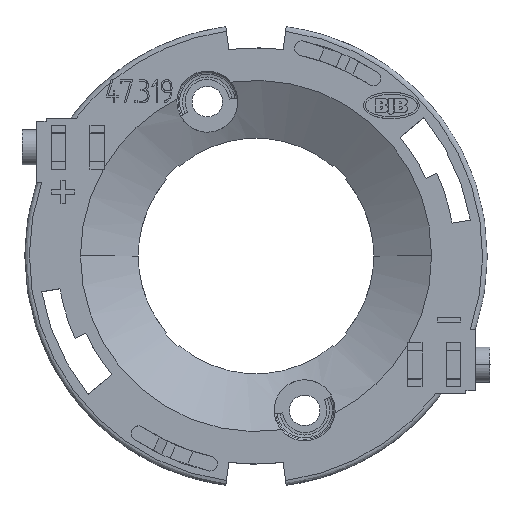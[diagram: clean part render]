
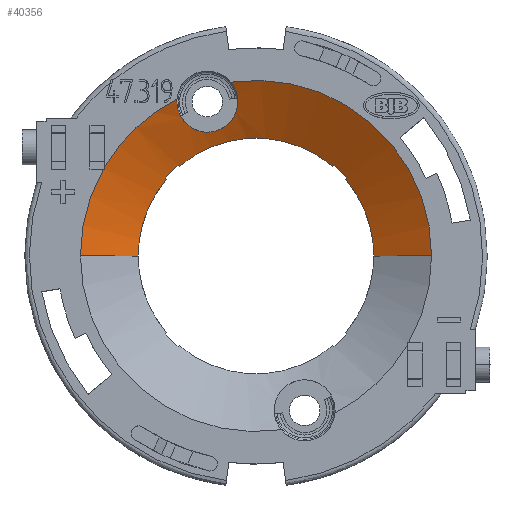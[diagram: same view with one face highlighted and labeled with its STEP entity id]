
A CAD part, top view. The second image highlights one B-rep face of the part: STEP entity #40356.
In plain terms, the highlighted free-form (B-spline) face has degree [7, 1] with [8, 2] control points.
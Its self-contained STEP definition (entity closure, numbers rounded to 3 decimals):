
#23366=CARTESIAN_POINT(' ',(-8.552,16.95,5.05));
#23367=VERTEX_POINT(' ',#23366);
#23371=CARTESIAN_POINT(' ',(-2.717,18.79,5.05));
#23372=VERTEX_POINT(' ',#23371);
#23386=CARTESIAN_POINT(' ',(0.,0.,5.05));
#23391=DIRECTION(' ',(0.,0.,1.));
#23396=DIRECTION(' ',(1.,0.,0.));
#23401=AXIS2_PLACEMENT_3D(' ',#23386,#23391,#23396);
#23406=CIRCLE('',#23401,18.985);
#23411=CARTESIAN_POINT(' ',(18.985,0.,5.05));
#23412=VERTEX_POINT(' ',#23411);
#23416=EDGE_CURVE(' ',#23412,#23372,#23406,.T.);
#23711=CARTESIAN_POINT(' ',(-18.985,0.,5.05));
#23712=VERTEX_POINT(' ',#23711);
#23726=CARTESIAN_POINT(' ',(0.001,-0.001,5.05));
#23731=DIRECTION(' ',(0.,0.,1.));
#23736=DIRECTION(' ',(-0.869,0.495,0.));
#23741=AXIS2_PLACEMENT_3D(' ',#23726,#23731,#23736);
#23746=CIRCLE('',#23741,18.987);
#23751=CARTESIAN_POINT(' ',(-16.495,9.4,5.05));
#23752=VERTEX_POINT(' ',#23751);
#23756=EDGE_CURVE(' ',#23752,#23712,#23746,.T.);
#23891=CARTESIAN_POINT(' ',(-16.35,9.65,5.05));
#23892=VERTEX_POINT(' ',#23891);
#23906=CARTESIAN_POINT(' ',(0.,0.,5.05));
#23911=DIRECTION(' ',(0.,0.,1.));
#23916=DIRECTION(' ',(-0.45,0.893,0.));
#23921=AXIS2_PLACEMENT_3D(' ',#23906,#23911,#23916);
#23926=CIRCLE('',#23921,18.985);
#23931=EDGE_CURVE(' ',#23367,#23892,#23926,.T.);
#39246=CARTESIAN_POINT(' ',(-1.962,16.69,3.791));
#39247=VERTEX_POINT(' ',#39246);
#39261=CARTESIAN_POINT(' ',(-6.247,16.56,4.048));
#39266=DIRECTION(' ',(-0.067,0.495,-0.866));
#39271=DIRECTION(' ',(0.822,0.519,0.233));
#39276=AXIS2_PLACEMENT_3D(' ',#39261,#39266,#39271);
#39281=CIRCLE('',#39276,4.294);
#39286=EDGE_CURVE(' ',#23372,#39247,#39281,.T.);
#39301=CARTESIAN_POINT(' ',(-8.562,16.69,4.919));
#39306=DIRECTION(' ',(0.035,0.892,0.45));
#39311=VECTOR(' ',#39306,1.);
#39316=LINE('',#39301,#39311);
#39321=CARTESIAN_POINT(' ',(-8.562,16.69,4.919));
#39322=VERTEX_POINT(' ',#39321);
#39326=EDGE_CURVE(' ',#39322,#23367,#39316,.T.);
#39701=CARTESIAN_POINT(' ',(18.985,0.,5.05));
#39706=CARTESIAN_POINT(' ',(12.75,0.,1.45));
#39711=CARTESIAN_POINT(' ',(18.985,8.521,5.05));
#39716=CARTESIAN_POINT(' ',(12.75,5.722,1.45));
#39721=CARTESIAN_POINT(' ',(14.523,17.033,5.05));
#39726=CARTESIAN_POINT(' ',(9.753,11.439,1.45));
#39731=CARTESIAN_POINT(' ',(5.609,22.792,5.05));
#39736=CARTESIAN_POINT(' ',(3.767,15.306,1.45));
#39741=CARTESIAN_POINT(' ',(-5.609,22.792,5.05));
#39746=CARTESIAN_POINT(' ',(-3.767,15.306,1.45));
#39751=CARTESIAN_POINT(' ',(-14.523,17.033,5.05));
#39756=CARTESIAN_POINT(' ',(-9.753,11.439,1.45));
#39761=CARTESIAN_POINT(' ',(-18.985,8.521,5.05));
#39766=CARTESIAN_POINT(' ',(-12.75,5.722,1.45));
#39771=CARTESIAN_POINT(' ',(-18.985,0.,5.05));
#39776=CARTESIAN_POINT(' ',(-12.75,0.,1.45));
#39781=B_SPLINE_SURFACE_WITH_KNOTS(' ',7,1,((#39701,#39706),(#39711,#39716),(#39721,#39726),(#39731,#39736),(#39741,#39746),(#39751,#39756),(#39761,#39766),(#39771,#39776)),.UNSPECIFIED.,.F.,.F.,.U.,(8,8),(2,2),(0.,1.),(0.,1.),.UNSPECIFIED.);
#39786=CARTESIAN_POINT(' ',(-18.985,0.,5.05));
#39791=DIRECTION(' ',(0.866,0.,-0.5));
#39796=VECTOR(' ',#39791,1.);
#39801=LINE('',#39786,#39796);
#39806=CARTESIAN_POINT(' ',(-12.75,0.,1.45));
#39807=VERTEX_POINT(' ',#39806);
#39811=EDGE_CURVE(' ',#23712,#39807,#39801,.T.);
#39816=ORIENTED_EDGE(' ',*,*,#39811,.T.);
#39821=CARTESIAN_POINT(' ',(0.,0.,1.45));
#39826=DIRECTION(' ',(0.,0.,1.));
#39831=DIRECTION(' ',(-0.76,0.649,0.));
#39836=AXIS2_PLACEMENT_3D(' ',#39821,#39826,#39831);
#39841=CIRCLE('',#39836,12.75);
#39846=CARTESIAN_POINT(' ',(-9.695,8.281,1.45));
#39847=VERTEX_POINT(' ',#39846);
#39851=EDGE_CURVE(' ',#39847,#39807,#39841,.T.);
#39856=ORIENTED_EDGE(' ',*,*,#39851,.F.);
#39861=CARTESIAN_POINT(' ',(-9.837,8.423,1.565));
#39866=DIRECTION(' ',(0.613,-0.613,-0.499));
#39871=VECTOR(' ',#39866,1.);
#39876=LINE('',#39861,#39871);
#39881=CARTESIAN_POINT(' ',(-9.837,8.423,1.565));
#39882=VERTEX_POINT(' ',#39881);
#39886=EDGE_CURVE(' ',#39882,#39847,#39876,.T.);
#39891=ORIENTED_EDGE(' ',*,*,#39886,.F.);
#39896=CARTESIAN_POINT(' ',(0.,0.,1.568));
#39901=DIRECTION(' ',(0.,0.,1.));
#39906=DIRECTION(' ',(-0.65,0.76,0.));
#39911=AXIS2_PLACEMENT_3D(' ',#39896,#39901,#39906);
#39916=CIRCLE('',#39911,12.95);
#39921=CARTESIAN_POINT(' ',(-8.423,9.837,1.565));
#39922=VERTEX_POINT(' ',#39921);
#39926=EDGE_CURVE(' ',#39922,#39882,#39916,.T.);
#39931=ORIENTED_EDGE(' ',*,*,#39926,.F.);
#39936=CARTESIAN_POINT(' ',(-8.281,9.695,1.45));
#39941=DIRECTION(' ',(-0.613,0.613,0.499));
#39946=VECTOR(' ',#39941,1.);
#39951=LINE('',#39936,#39946);
#39956=CARTESIAN_POINT(' ',(-8.281,9.695,1.45));
#39957=VERTEX_POINT(' ',#39956);
#39961=EDGE_CURVE(' ',#39957,#39922,#39951,.T.);
#39966=ORIENTED_EDGE(' ',*,*,#39961,.F.);
#39971=CARTESIAN_POINT(' ',(0.,0.,1.45));
#39976=DIRECTION(' ',(0.,0.,1.));
#39981=DIRECTION(' ',(0.649,0.76,0.));
#39986=AXIS2_PLACEMENT_3D(' ',#39971,#39976,#39981);
#39991=CIRCLE('',#39986,12.75);
#39996=CARTESIAN_POINT(' ',(8.281,9.695,1.45));
#39997=VERTEX_POINT(' ',#39996);
#40001=EDGE_CURVE(' ',#39997,#39957,#39991,.T.);
#40006=ORIENTED_EDGE(' ',*,*,#40001,.F.);
#40011=CARTESIAN_POINT(' ',(8.281,9.695,1.45));
#40016=DIRECTION(' ',(0.613,0.613,0.499));
#40021=VECTOR(' ',#40016,1.);
#40026=LINE('',#40011,#40021);
#40031=CARTESIAN_POINT(' ',(8.423,9.837,1.565));
#40032=VERTEX_POINT(' ',#40031);
#40036=EDGE_CURVE(' ',#39997,#40032,#40026,.T.);
#40041=ORIENTED_EDGE(' ',*,*,#40036,.T.);
#40046=CARTESIAN_POINT(' ',(0.,0.,1.568));
#40051=DIRECTION(' ',(0.,0.,-1.));
#40056=DIRECTION(' ',(0.65,0.76,0.));
#40061=AXIS2_PLACEMENT_3D(' ',#40046,#40051,#40056);
#40066=CIRCLE('',#40061,12.949);
#40071=CARTESIAN_POINT(' ',(9.837,8.423,1.565));
#40072=VERTEX_POINT(' ',#40071);
#40076=EDGE_CURVE(' ',#40032,#40072,#40066,.T.);
#40081=ORIENTED_EDGE(' ',*,*,#40076,.T.);
#40086=CARTESIAN_POINT(' ',(9.837,8.423,1.565));
#40091=DIRECTION(' ',(-0.613,-0.613,-0.499));
#40096=VECTOR(' ',#40091,1.);
#40101=LINE('',#40086,#40096);
#40106=CARTESIAN_POINT(' ',(9.695,8.281,1.45));
#40107=VERTEX_POINT(' ',#40106);
#40111=EDGE_CURVE(' ',#40072,#40107,#40101,.T.);
#40116=ORIENTED_EDGE(' ',*,*,#40111,.T.);
#40121=CARTESIAN_POINT(' ',(0.,0.,1.45));
#40126=DIRECTION(' ',(0.,0.,1.));
#40131=DIRECTION(' ',(1.,0.,0.));
#40136=AXIS2_PLACEMENT_3D(' ',#40121,#40126,#40131);
#40141=CIRCLE('',#40136,12.75);
#40146=CARTESIAN_POINT(' ',(12.75,0.,1.45));
#40147=VERTEX_POINT(' ',#40146);
#40151=EDGE_CURVE(' ',#40147,#40107,#40141,.T.);
#40156=ORIENTED_EDGE(' ',*,*,#40151,.F.);
#40161=CARTESIAN_POINT(' ',(12.75,0.,1.45));
#40166=DIRECTION(' ',(0.866,0.,0.5));
#40171=VECTOR(' ',#40166,1.);
#40176=LINE('',#40161,#40171);
#40181=EDGE_CURVE(' ',#40147,#23412,#40176,.T.);
#40186=ORIENTED_EDGE(' ',*,*,#40181,.T.);
#40191=ORIENTED_EDGE(' ',*,*,#23416,.T.);
#40196=ORIENTED_EDGE(' ',*,*,#39286,.T.);
#40201=CARTESIAN_POINT(' ',(-1.962,16.69,3.791));
#40206=CARTESIAN_POINT(' ',(-1.963,15.756,3.256));
#40211=CARTESIAN_POINT(' ',(-2.367,14.786,2.717));
#40216=CARTESIAN_POINT(' ',(-3.585,13.803,2.318));
#40221=CARTESIAN_POINT(' ',(-4.114,13.543,2.254));
#40226=CARTESIAN_POINT(' ',(-5.855,13.232,2.415));
#40231=CARTESIAN_POINT(' ',(-6.908,13.663,2.926));
#40236=CARTESIAN_POINT(' ',(-8.211,14.978,3.95));
#40241=CARTESIAN_POINT(' ',(-8.562,15.817,4.47));
#40246=CARTESIAN_POINT(' ',(-8.562,16.69,4.919));
#40251=B_SPLINE_CURVE_WITH_KNOTS('',3,(#40201,#40206,#40211,#40216,#40221,#40226,#40231,#40236,#40241,#40246),.UNSPECIFIED.,.F.,.U.,(4,2,2,2,4),(0.,0.299,0.443,0.741,1.),.UNSPECIFIED.);
#40256=EDGE_CURVE(' ',#39247,#39322,#40251,.T.);
#40261=ORIENTED_EDGE(' ',*,*,#40256,.T.);
#40266=ORIENTED_EDGE(' ',*,*,#39326,.T.);
#40271=ORIENTED_EDGE(' ',*,*,#23931,.T.);
#40276=CARTESIAN_POINT(' ',(-16.35,9.4,4.977));
#40281=DIRECTION(' ',(0.,0.96,0.279));
#40286=VECTOR(' ',#40281,1.);
#40291=LINE('',#40276,#40286);
#40296=CARTESIAN_POINT(' ',(-16.35,9.4,4.977));
#40297=VERTEX_POINT(' ',#40296);
#40301=EDGE_CURVE(' ',#40297,#23892,#40291,.T.);
#40306=ORIENTED_EDGE(' ',*,*,#40301,.F.);
#40311=CARTESIAN_POINT(' ',(-16.495,9.4,5.05));
#40316=DIRECTION(' ',(0.894,0.,-0.448));
#40321=VECTOR(' ',#40316,1.);
#40326=LINE('',#40311,#40321);
#40331=EDGE_CURVE(' ',#23752,#40297,#40326,.T.);
#40336=ORIENTED_EDGE(' ',*,*,#40331,.F.);
#40341=ORIENTED_EDGE(' ',*,*,#23756,.T.);
#40346=EDGE_LOOP(' ',(#39816,#39856,#39891,#39931,#39966,#40006,#40041,#40081,#40116,#40156,#40186,#40191,#40196,#40261,#40266,#40271,#40306,#40336,#40341));
#40351=FACE_OUTER_BOUND(' ',#40346,.T.);
#40356=ADVANCED_FACE('',(#40351),#39781,.T.);
